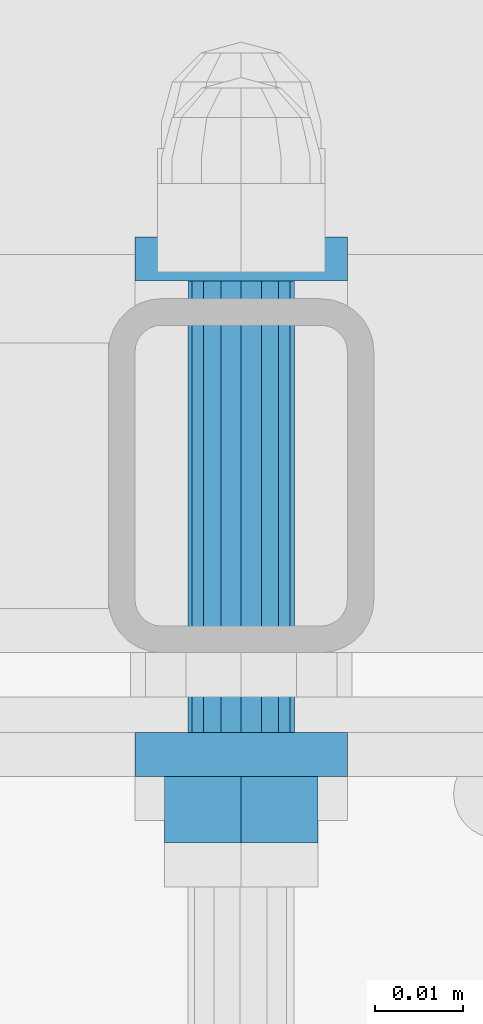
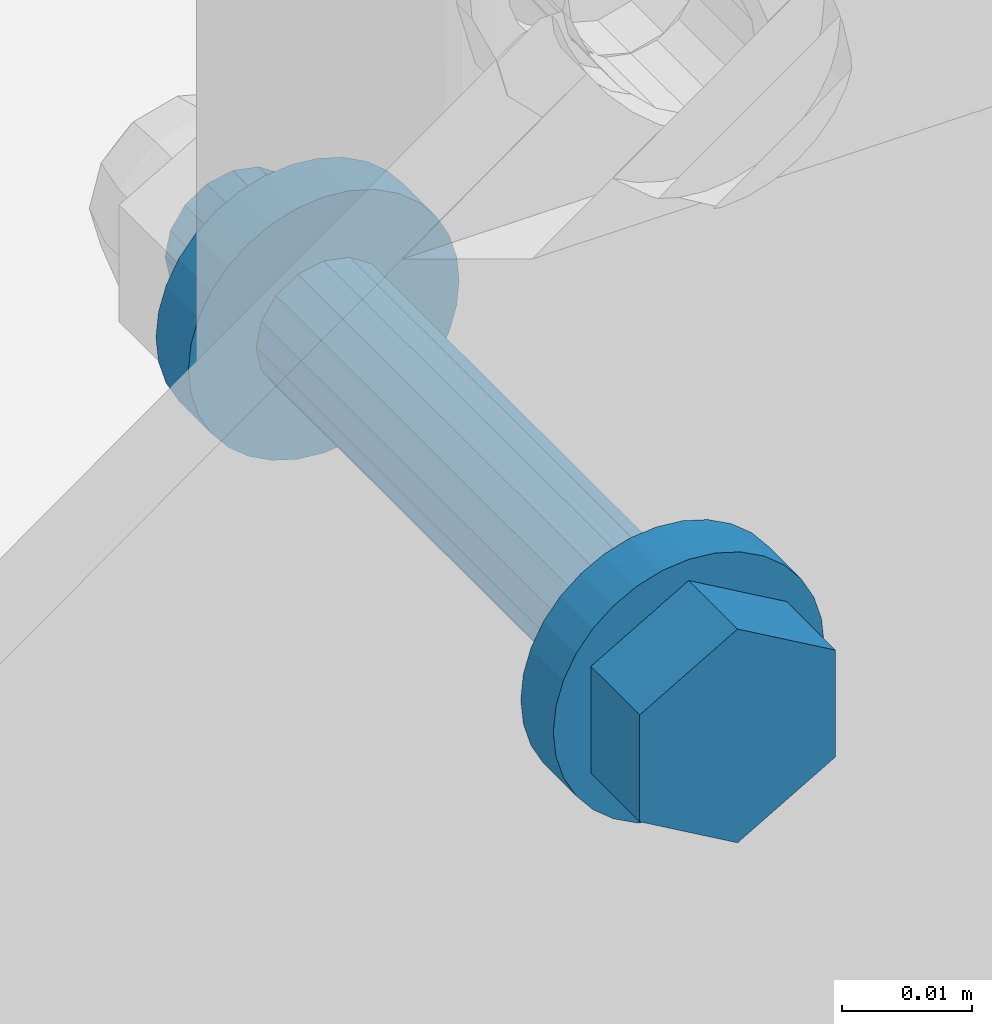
# One storey, part 86 of 116: 1 mechanical fastener.
"""IFC2X3 building model written with IfcOpenShell, lengths in millimetres."""

from ifc_helpers import new_model, entity, si_unit, converted_unit, origin_with_axes, place, context, project, spatial, faceted_brep, element, save


model = new_model("IFC2X3")

# Units and contexts
model_context = context("Model", 3, precision=1e-09, world=origin_with_axes())
ifc_project = project(units=[si_unit("LENGTHUNIT", "METRE", prefix="MILLI"), si_unit("AREAUNIT", "SQUARE_METRE"), si_unit("VOLUMEUNIT", "CUBIC_METRE"), converted_unit("PLANEANGLEUNIT", "DEGREE", entity("IfcPlaneAngleMeasure", 0.01745329), si_unit("PLANEANGLEUNIT", "RADIAN"), dimensions=[0, 0, 0, 0, 0, 0, 0])], contexts=[model_context])

# Site, building, storey
site_placement = place(None, origin_with_axes())
site = spatial("IfcSite", under=ifc_project, at=site_placement, Name="Site", CompositionType="ELEMENT")
building_placement = place(site_placement, origin_with_axes())
building = spatial("IfcBuilding", under=site, at=building_placement, Name="Struktur 1", CompositionType="ELEMENT")
storey_placement = place(building_placement, origin_with_axes())
storey = spatial("IfcBuildingStorey", under=building, at=storey_placement, Name="Default Storey", CompositionType="ELEMENT", Elevation=0.0)

# Mechanical fastener
mechanical_fastener_placement = place(None, origin_with_axes())
element("IfcMechanicalFastener", 1, at=mechanical_fastener_placement, inside=storey, ObjectType="-", NominalDiameter=12.0, NominalLength=70.0, context=model_context, shape_type="Brep", body=[
    faceted_brep([(60565.049134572, 10423.858883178, -1368.0), (60565.049134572, 10426.358883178, -1368.0), (60565.279711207, 10426.358883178, -1370.341083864), (60565.279711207, 10423.858883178, -1370.341083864), (60565.962580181, 10426.358883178, -1372.592201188), (60565.962580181, 10423.858883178, -1372.592201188), (60567.071499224, 10426.358883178, -1374.666842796), (60567.071499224, 10423.858883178, -1374.666842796), (60568.563853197, 10426.358883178, -1376.485281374), (60568.563853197, 10423.858883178, -1376.485281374), (60570.382291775, 10426.358883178, -1377.977635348), (60570.382291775, 10423.858883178, -1377.977635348), (60572.456933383, 10426.358883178, -1379.08655439), (60572.456933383, 10423.858883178, -1379.08655439), (60574.708050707, 10426.358883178, -1379.769423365), (60574.708050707, 10423.858883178, -1379.769423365), (60577.049134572, 10426.358883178, -1380.0), (60577.049134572, 10423.858883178, -1380.0), (60579.390218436, 10426.358883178, -1379.769423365), (60579.390218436, 10423.858883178, -1379.769423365), (60581.64133576, 10426.358883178, -1379.08655439), (60581.64133576, 10423.858883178, -1379.08655439), (60583.715977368, 10426.358883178, -1377.977635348), (60583.715977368, 10423.858883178, -1377.977635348), (60585.534415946, 10426.358883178, -1376.485281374), (60585.534415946, 10423.858883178, -1376.485281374), (60587.026769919, 10426.358883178, -1374.666842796), (60587.026769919, 10423.858883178, -1374.666842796), (60588.135688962, 10426.358883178, -1372.592201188), (60588.135688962, 10423.858883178, -1372.592201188), (60588.818557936, 10426.358883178, -1370.341083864), (60588.818557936, 10423.858883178, -1370.341083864), (60589.049134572, 10426.358883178, -1368.0), (60589.049134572, 10423.858883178, -1368.0), (60588.818557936, 10426.358883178, -1365.658916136), (60588.818557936, 10423.858883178, -1365.658916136), (60588.135688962, 10426.358883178, -1363.407798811), (60588.135688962, 10423.858883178, -1363.407798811), (60587.026769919, 10426.358883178, -1361.333157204), (60587.026769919, 10423.858883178, -1361.333157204), (60585.534415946, 10426.358883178, -1359.514718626), (60585.534415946, 10423.858883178, -1359.514718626), (60583.715977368, 10426.358883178, -1358.022364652), (60583.715977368, 10423.858883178, -1358.022364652), (60581.64133576, 10426.358883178, -1356.91344561), (60581.64133576, 10423.858883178, -1356.91344561), (60579.390218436, 10426.358883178, -1356.230576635), (60579.390218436, 10423.858883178, -1356.230576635), (60577.049134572, 10426.358883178, -1356.0), (60577.049134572, 10423.858883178, -1356.0), (60574.708050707, 10426.358883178, -1356.230576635), (60574.708050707, 10423.858883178, -1356.230576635), (60572.456933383, 10426.358883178, -1356.91344561), (60572.456933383, 10423.858883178, -1356.91344561), (60570.382291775, 10426.358883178, -1358.022364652), (60570.382291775, 10423.858883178, -1358.022364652), (60568.563853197, 10426.358883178, -1359.514718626), (60568.563853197, 10423.858883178, -1359.514718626), (60567.071499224, 10426.358883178, -1361.333157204), (60567.071499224, 10423.858883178, -1361.333157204), (60565.962580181, 10426.358883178, -1363.407798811), (60565.962580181, 10423.858883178, -1363.407798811), (60565.279711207, 10426.358883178, -1365.658916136), (60565.279711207, 10423.858883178, -1365.658916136)], [[[0, 1, 2, 3]], [[3, 2, 4, 5]], [[5, 4, 6, 7]], [[7, 6, 8, 9]], [[9, 8, 10, 11]], [[11, 10, 12, 13]], [[13, 12, 14, 15]], [[15, 14, 16, 17]], [[17, 16, 18, 19]], [[19, 18, 20, 21]], [[21, 20, 22, 23]], [[23, 22, 24, 25]], [[25, 24, 26, 27]], [[27, 26, 28, 29]], [[29, 28, 30, 31]], [[31, 30, 32, 33]], [[33, 32, 34, 35]], [[35, 34, 36, 37]], [[37, 36, 38, 39]], [[39, 38, 40, 41]], [[41, 40, 42, 43]], [[43, 42, 44, 45]], [[45, 44, 46, 47]], [[47, 46, 48, 49]], [[49, 48, 50, 51]], [[51, 50, 52, 53]], [[53, 52, 54, 55]], [[55, 54, 56, 57]], [[57, 56, 58, 59]], [[59, 58, 60, 61]], [[61, 60, 62, 63]], [[63, 62, 1, 0]], [[0, 3, 5, 7, 9, 11, 13, 15, 17, 19, 21, 23, 25, 27, 29, 31, 33, 35, 37, 39, 41, 43, 45, 47, 49, 51, 53, 55, 57, 59, 61, 63]], [[1, 62, 60, 58, 56, 54, 52, 50, 48, 46, 44, 42, 40, 38, 36, 34, 32, 30, 28, 26, 24, 22, 20, 18, 16, 14, 12, 10, 8, 6, 4, 2]]]),
    faceted_brep([(60565.049134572, 10421.358883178, -1368.0), (60565.049134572, 10423.858883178, -1368.0), (60565.279711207, 10423.858883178, -1370.341083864), (60565.279711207, 10421.358883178, -1370.341083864), (60565.962580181, 10423.858883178, -1372.592201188), (60565.962580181, 10421.358883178, -1372.592201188), (60567.071499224, 10423.858883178, -1374.666842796), (60567.071499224, 10421.358883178, -1374.666842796), (60568.563853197, 10423.858883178, -1376.485281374), (60568.563853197, 10421.358883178, -1376.485281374), (60570.382291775, 10423.858883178, -1377.977635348), (60570.382291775, 10421.358883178, -1377.977635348), (60572.456933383, 10423.858883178, -1379.08655439), (60572.456933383, 10421.358883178, -1379.08655439), (60574.708050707, 10423.858883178, -1379.769423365), (60574.708050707, 10421.358883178, -1379.769423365), (60577.049134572, 10423.858883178, -1380.0), (60577.049134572, 10421.358883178, -1380.0), (60579.390218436, 10423.858883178, -1379.769423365), (60579.390218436, 10421.358883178, -1379.769423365), (60581.64133576, 10423.858883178, -1379.08655439), (60581.64133576, 10421.358883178, -1379.08655439), (60583.715977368, 10423.858883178, -1377.977635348), (60583.715977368, 10421.358883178, -1377.977635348), (60585.534415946, 10423.858883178, -1376.485281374), (60585.534415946, 10421.358883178, -1376.485281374), (60587.026769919, 10423.858883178, -1374.666842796), (60587.026769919, 10421.358883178, -1374.666842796), (60588.135688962, 10423.858883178, -1372.592201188), (60588.135688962, 10421.358883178, -1372.592201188), (60588.818557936, 10423.858883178, -1370.341083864), (60588.818557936, 10421.358883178, -1370.341083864), (60589.049134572, 10423.858883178, -1368.0), (60589.049134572, 10421.358883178, -1368.0), (60588.818557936, 10423.858883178, -1365.658916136), (60588.818557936, 10421.358883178, -1365.658916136), (60588.135688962, 10423.858883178, -1363.407798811), (60588.135688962, 10421.358883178, -1363.407798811), (60587.026769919, 10423.858883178, -1361.333157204), (60587.026769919, 10421.358883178, -1361.333157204), (60585.534415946, 10423.858883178, -1359.514718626), (60585.534415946, 10421.358883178, -1359.514718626), (60583.715977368, 10423.858883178, -1358.022364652), (60583.715977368, 10421.358883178, -1358.022364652), (60581.64133576, 10423.858883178, -1356.91344561), (60581.64133576, 10421.358883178, -1356.91344561), (60579.390218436, 10423.858883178, -1356.230576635), (60579.390218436, 10421.358883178, -1356.230576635), (60577.049134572, 10423.858883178, -1356.0), (60577.049134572, 10421.358883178, -1356.0), (60574.708050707, 10423.858883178, -1356.230576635), (60574.708050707, 10421.358883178, -1356.230576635), (60572.456933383, 10423.858883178, -1356.91344561), (60572.456933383, 10421.358883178, -1356.91344561), (60570.382291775, 10423.858883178, -1358.022364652), (60570.382291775, 10421.358883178, -1358.022364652), (60568.563853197, 10423.858883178, -1359.514718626), (60568.563853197, 10421.358883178, -1359.514718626), (60567.071499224, 10423.858883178, -1361.333157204), (60567.071499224, 10421.358883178, -1361.333157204), (60565.962580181, 10423.858883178, -1363.407798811), (60565.962580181, 10421.358883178, -1363.407798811), (60565.279711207, 10423.858883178, -1365.658916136), (60565.279711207, 10421.358883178, -1365.658916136)], [[[0, 1, 2, 3]], [[3, 2, 4, 5]], [[5, 4, 6, 7]], [[7, 6, 8, 9]], [[9, 8, 10, 11]], [[11, 10, 12, 13]], [[13, 12, 14, 15]], [[15, 14, 16, 17]], [[17, 16, 18, 19]], [[19, 18, 20, 21]], [[21, 20, 22, 23]], [[23, 22, 24, 25]], [[25, 24, 26, 27]], [[27, 26, 28, 29]], [[29, 28, 30, 31]], [[31, 30, 32, 33]], [[33, 32, 34, 35]], [[35, 34, 36, 37]], [[37, 36, 38, 39]], [[39, 38, 40, 41]], [[41, 40, 42, 43]], [[43, 42, 44, 45]], [[45, 44, 46, 47]], [[47, 46, 48, 49]], [[49, 48, 50, 51]], [[51, 50, 52, 53]], [[53, 52, 54, 55]], [[55, 54, 56, 57]], [[57, 56, 58, 59]], [[59, 58, 60, 61]], [[61, 60, 62, 63]], [[63, 62, 1, 0]], [[0, 3, 5, 7, 9, 11, 13, 15, 17, 19, 21, 23, 25, 27, 29, 31, 33, 35, 37, 39, 41, 43, 45, 47, 49, 51, 53, 55, 57, 59, 61, 63]], [[1, 62, 60, 58, 56, 54, 52, 50, 48, 46, 44, 42, 40, 38, 36, 34, 32, 30, 28, 26, 24, 22, 20, 18, 16, 14, 12, 10, 8, 6, 4, 2]]]),
    faceted_brep([(60585.722378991, 10421.358883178, -1373.0075), (60585.722378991, 10413.858883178, -1373.0075), (60577.049134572, 10413.858883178, -1378.015), (60577.049134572, 10421.358883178, -1378.015), (60568.375890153, 10413.858883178, -1373.0075), (60568.375890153, 10421.358883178, -1373.0075), (60568.375890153, 10413.858883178, -1362.9925), (60568.375890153, 10421.358883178, -1362.9925), (60577.049134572, 10413.858883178, -1357.985), (60577.049134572, 10421.358883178, -1357.985), (60585.722378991, 10413.858883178, -1362.9925), (60585.722378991, 10421.358883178, -1362.9925)], [[[0, 1, 2, 3]], [[3, 2, 4, 5]], [[5, 4, 6, 7]], [[7, 6, 8, 9]], [[9, 8, 10, 11]], [[11, 10, 1, 0]], [[4, 2, 1, 10, 8, 6]], [[0, 3, 5, 7, 9, 11]]]),
    faceted_brep([(60571.049134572, 10426.358883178, -1368.0), (60571.049134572, 10477.357883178, -1368.0), (60571.505857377, 10477.357883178, -1370.296100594), (60571.505857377, 10426.358883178, -1370.296100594), (60572.806493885, 10477.357883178, -1372.242640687), (60572.806493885, 10426.358883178, -1372.242640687), (60574.753033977, 10477.357883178, -1373.543277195), (60574.753033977, 10426.358883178, -1373.543277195), (60577.049134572, 10477.357883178, -1374.0), (60577.049134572, 10426.358883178, -1374.0), (60579.345235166, 10477.357883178, -1373.543277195), (60579.345235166, 10426.358883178, -1373.543277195), (60581.291775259, 10477.357883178, -1372.242640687), (60581.291775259, 10426.358883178, -1372.242640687), (60582.592411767, 10477.357883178, -1370.296100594), (60582.592411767, 10426.358883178, -1370.296100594), (60583.049134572, 10477.357883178, -1368.0), (60583.049134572, 10426.358883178, -1368.0), (60582.592411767, 10477.357883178, -1365.703899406), (60582.592411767, 10426.358883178, -1365.703899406), (60581.291775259, 10477.357883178, -1363.757359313), (60581.291775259, 10426.358883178, -1363.757359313), (60579.345235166, 10477.357883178, -1362.456722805), (60579.345235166, 10426.358883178, -1362.456722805), (60577.049134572, 10477.357883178, -1362.0), (60577.049134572, 10426.358883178, -1362.0), (60574.753033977, 10477.357883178, -1362.456722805), (60574.753033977, 10426.358883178, -1362.456722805), (60572.806493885, 10477.357883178, -1363.757359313), (60572.806493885, 10426.358883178, -1363.757359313), (60571.505857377, 10477.357883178, -1365.703899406), (60571.505857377, 10426.358883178, -1365.703899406)], [[[0, 1, 2, 3]], [[3, 2, 4, 5]], [[5, 4, 6, 7]], [[7, 6, 8, 9]], [[9, 8, 10, 11]], [[11, 10, 12, 13]], [[13, 12, 14, 15]], [[15, 14, 16, 17]], [[17, 16, 18, 19]], [[19, 18, 20, 21]], [[21, 20, 22, 23]], [[23, 22, 24, 25]], [[25, 24, 26, 27]], [[27, 26, 28, 29]], [[29, 28, 30, 31]], [[31, 30, 1, 0]], [[0, 3, 5, 7, 9, 11, 13, 15, 17, 19, 21, 23, 25, 27, 29, 31]], [[1, 30, 28, 26, 24, 22, 20, 18, 16, 14, 12, 10, 8, 6, 4, 2]]]),
    faceted_brep([(60565.049134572, 10477.357883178, -1368.0), (60565.049134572, 10479.857883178, -1368.0), (60565.279711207, 10479.857883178, -1370.341083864), (60565.279711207, 10477.357883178, -1370.341083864), (60565.962580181, 10479.857883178, -1372.592201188), (60565.962580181, 10477.357883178, -1372.592201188), (60567.071499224, 10479.857883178, -1374.666842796), (60567.071499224, 10477.357883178, -1374.666842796), (60568.563853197, 10479.857883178, -1376.485281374), (60568.563853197, 10477.357883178, -1376.485281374), (60570.382291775, 10479.857883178, -1377.977635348), (60570.382291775, 10477.357883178, -1377.977635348), (60572.456933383, 10479.857883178, -1379.08655439), (60572.456933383, 10477.357883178, -1379.08655439), (60574.708050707, 10479.857883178, -1379.769423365), (60574.708050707, 10477.357883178, -1379.769423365), (60577.049134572, 10479.857883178, -1380.0), (60577.049134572, 10477.357883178, -1380.0), (60579.390218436, 10479.857883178, -1379.769423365), (60579.390218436, 10477.357883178, -1379.769423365), (60581.64133576, 10479.857883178, -1379.08655439), (60581.64133576, 10477.357883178, -1379.08655439), (60583.715977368, 10479.857883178, -1377.977635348), (60583.715977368, 10477.357883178, -1377.977635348), (60585.534415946, 10479.857883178, -1376.485281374), (60585.534415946, 10477.357883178, -1376.485281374), (60587.026769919, 10479.857883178, -1374.666842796), (60587.026769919, 10477.357883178, -1374.666842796), (60588.135688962, 10479.857883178, -1372.592201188), (60588.135688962, 10477.357883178, -1372.592201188), (60588.818557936, 10479.857883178, -1370.341083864), (60588.818557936, 10477.357883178, -1370.341083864), (60589.049134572, 10479.857883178, -1368.0), (60589.049134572, 10477.357883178, -1368.0), (60588.818557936, 10479.857883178, -1365.658916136), (60588.818557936, 10477.357883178, -1365.658916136), (60588.135688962, 10479.857883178, -1363.407798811), (60588.135688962, 10477.357883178, -1363.407798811), (60587.026769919, 10479.857883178, -1361.333157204), (60587.026769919, 10477.357883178, -1361.333157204), (60585.534415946, 10479.857883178, -1359.514718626), (60585.534415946, 10477.357883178, -1359.514718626), (60583.715977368, 10479.857883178, -1358.022364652), (60583.715977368, 10477.357883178, -1358.022364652), (60581.64133576, 10479.857883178, -1356.91344561), (60581.64133576, 10477.357883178, -1356.91344561), (60579.390218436, 10479.857883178, -1356.230576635), (60579.390218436, 10477.357883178, -1356.230576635), (60577.049134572, 10479.857883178, -1356.0), (60577.049134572, 10477.357883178, -1356.0), (60574.708050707, 10479.857883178, -1356.230576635), (60574.708050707, 10477.357883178, -1356.230576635), (60572.456933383, 10479.857883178, -1356.91344561), (60572.456933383, 10477.357883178, -1356.91344561), (60570.382291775, 10479.857883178, -1358.022364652), (60570.382291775, 10477.357883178, -1358.022364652), (60568.563853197, 10479.857883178, -1359.514718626), (60568.563853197, 10477.357883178, -1359.514718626), (60567.071499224, 10479.857883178, -1361.333157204), (60567.071499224, 10477.357883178, -1361.333157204), (60565.962580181, 10479.857883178, -1363.407798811), (60565.962580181, 10477.357883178, -1363.407798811), (60565.279711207, 10479.857883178, -1365.658916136), (60565.279711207, 10477.357883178, -1365.658916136)], [[[0, 1, 2, 3]], [[3, 2, 4, 5]], [[5, 4, 6, 7]], [[7, 6, 8, 9]], [[9, 8, 10, 11]], [[11, 10, 12, 13]], [[13, 12, 14, 15]], [[15, 14, 16, 17]], [[17, 16, 18, 19]], [[19, 18, 20, 21]], [[21, 20, 22, 23]], [[23, 22, 24, 25]], [[25, 24, 26, 27]], [[27, 26, 28, 29]], [[29, 28, 30, 31]], [[31, 30, 32, 33]], [[33, 32, 34, 35]], [[35, 34, 36, 37]], [[37, 36, 38, 39]], [[39, 38, 40, 41]], [[41, 40, 42, 43]], [[43, 42, 44, 45]], [[45, 44, 46, 47]], [[47, 46, 48, 49]], [[49, 48, 50, 51]], [[51, 50, 52, 53]], [[53, 52, 54, 55]], [[55, 54, 56, 57]], [[57, 56, 58, 59]], [[59, 58, 60, 61]], [[61, 60, 62, 63]], [[63, 62, 1, 0]], [[0, 3, 5, 7, 9, 11, 13, 15, 17, 19, 21, 23, 25, 27, 29, 31, 33, 35, 37, 39, 41, 43, 45, 47, 49, 51, 53, 55, 57, 59, 61, 63]], [[1, 62, 60, 58, 56, 54, 52, 50, 48, 46, 44, 42, 40, 38, 36, 34, 32, 30, 28, 26, 24, 22, 20, 18, 16, 14, 12, 10, 8, 6, 4, 2]]]),
    faceted_brep([(60565.049134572, 10479.857883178, -1368.0), (60565.049134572, 10482.357883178, -1368.0), (60565.279711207, 10482.357883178, -1370.341083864), (60565.279711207, 10479.857883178, -1370.341083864), (60565.962580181, 10482.357883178, -1372.592201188), (60565.962580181, 10479.857883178, -1372.592201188), (60567.071499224, 10482.357883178, -1374.666842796), (60567.071499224, 10479.857883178, -1374.666842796), (60568.563853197, 10482.357883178, -1376.485281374), (60568.563853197, 10479.857883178, -1376.485281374), (60570.382291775, 10482.357883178, -1377.977635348), (60570.382291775, 10479.857883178, -1377.977635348), (60572.456933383, 10482.357883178, -1379.08655439), (60572.456933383, 10479.857883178, -1379.08655439), (60574.708050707, 10482.357883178, -1379.769423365), (60574.708050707, 10479.857883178, -1379.769423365), (60577.049134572, 10482.357883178, -1380.0), (60577.049134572, 10479.857883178, -1380.0), (60579.390218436, 10482.357883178, -1379.769423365), (60579.390218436, 10479.857883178, -1379.769423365), (60581.64133576, 10482.357883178, -1379.08655439), (60581.64133576, 10479.857883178, -1379.08655439), (60583.715977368, 10482.357883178, -1377.977635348), (60583.715977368, 10479.857883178, -1377.977635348), (60585.534415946, 10482.357883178, -1376.485281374), (60585.534415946, 10479.857883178, -1376.485281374), (60587.026769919, 10482.357883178, -1374.666842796), (60587.026769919, 10479.857883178, -1374.666842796), (60588.135688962, 10482.357883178, -1372.592201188), (60588.135688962, 10479.857883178, -1372.592201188), (60588.818557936, 10482.357883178, -1370.341083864), (60588.818557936, 10479.857883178, -1370.341083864), (60589.049134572, 10482.357883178, -1368.0), (60589.049134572, 10479.857883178, -1368.0), (60588.818557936, 10482.357883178, -1365.658916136), (60588.818557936, 10479.857883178, -1365.658916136), (60588.135688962, 10482.357883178, -1363.407798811), (60588.135688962, 10479.857883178, -1363.407798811), (60587.026769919, 10482.357883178, -1361.333157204), (60587.026769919, 10479.857883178, -1361.333157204), (60585.534415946, 10482.357883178, -1359.514718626), (60585.534415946, 10479.857883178, -1359.514718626), (60583.715977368, 10482.357883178, -1358.022364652), (60583.715977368, 10479.857883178, -1358.022364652), (60581.64133576, 10482.357883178, -1356.91344561), (60581.64133576, 10479.857883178, -1356.91344561), (60579.390218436, 10482.357883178, -1356.230576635), (60579.390218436, 10479.857883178, -1356.230576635), (60577.049134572, 10482.357883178, -1356.0), (60577.049134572, 10479.857883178, -1356.0), (60574.708050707, 10482.357883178, -1356.230576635), (60574.708050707, 10479.857883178, -1356.230576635), (60572.456933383, 10482.357883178, -1356.91344561), (60572.456933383, 10479.857883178, -1356.91344561), (60570.382291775, 10482.357883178, -1358.022364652), (60570.382291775, 10479.857883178, -1358.022364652), (60568.563853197, 10482.357883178, -1359.514718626), (60568.563853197, 10479.857883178, -1359.514718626), (60567.071499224, 10482.357883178, -1361.333157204), (60567.071499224, 10479.857883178, -1361.333157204), (60565.962580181, 10482.357883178, -1363.407798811), (60565.962580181, 10479.857883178, -1363.407798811), (60565.279711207, 10482.357883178, -1365.658916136), (60565.279711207, 10479.857883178, -1365.658916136)], [[[0, 1, 2, 3]], [[3, 2, 4, 5]], [[5, 4, 6, 7]], [[7, 6, 8, 9]], [[9, 8, 10, 11]], [[11, 10, 12, 13]], [[13, 12, 14, 15]], [[15, 14, 16, 17]], [[17, 16, 18, 19]], [[19, 18, 20, 21]], [[21, 20, 22, 23]], [[23, 22, 24, 25]], [[25, 24, 26, 27]], [[27, 26, 28, 29]], [[29, 28, 30, 31]], [[31, 30, 32, 33]], [[33, 32, 34, 35]], [[35, 34, 36, 37]], [[37, 36, 38, 39]], [[39, 38, 40, 41]], [[41, 40, 42, 43]], [[43, 42, 44, 45]], [[45, 44, 46, 47]], [[47, 46, 48, 49]], [[49, 48, 50, 51]], [[51, 50, 52, 53]], [[53, 52, 54, 55]], [[55, 54, 56, 57]], [[57, 56, 58, 59]], [[59, 58, 60, 61]], [[61, 60, 62, 63]], [[63, 62, 1, 0]], [[0, 3, 5, 7, 9, 11, 13, 15, 17, 19, 21, 23, 25, 27, 29, 31, 33, 35, 37, 39, 41, 43, 45, 47, 49, 51, 53, 55, 57, 59, 61, 63]], [[1, 62, 60, 58, 56, 54, 52, 50, 48, 46, 44, 42, 40, 38, 36, 34, 32, 30, 28, 26, 24, 22, 20, 18, 16, 14, 12, 10, 8, 6, 4, 2]]]),
    faceted_brep([(60571.049134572, 10482.357883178, -1368.0), (60571.049134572, 10491.358883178, -1368.0), (60571.505857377, 10491.358883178, -1370.296100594), (60571.505857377, 10482.357883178, -1370.296100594), (60572.806493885, 10491.358883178, -1372.242640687), (60572.806493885, 10482.357883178, -1372.242640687), (60574.753033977, 10491.358883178, -1373.543277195), (60574.753033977, 10482.357883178, -1373.543277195), (60577.049134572, 10491.358883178, -1374.0), (60577.049134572, 10482.357883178, -1374.0), (60579.345235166, 10491.358883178, -1373.543277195), (60579.345235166, 10482.357883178, -1373.543277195), (60581.291775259, 10491.358883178, -1372.242640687), (60581.291775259, 10482.357883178, -1372.242640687), (60582.592411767, 10491.358883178, -1370.296100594), (60582.592411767, 10482.357883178, -1370.296100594), (60583.049134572, 10491.358883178, -1368.0), (60583.049134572, 10482.357883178, -1368.0), (60582.592411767, 10491.358883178, -1365.703899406), (60582.592411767, 10482.357883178, -1365.703899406), (60581.291775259, 10491.358883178, -1363.757359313), (60581.291775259, 10482.357883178, -1363.757359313), (60579.345235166, 10491.358883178, -1362.456722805), (60579.345235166, 10482.357883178, -1362.456722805), (60577.049134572, 10491.358883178, -1362.0), (60577.049134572, 10482.357883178, -1362.0), (60574.753033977, 10491.358883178, -1362.456722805), (60574.753033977, 10482.357883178, -1362.456722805), (60572.806493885, 10491.358883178, -1363.757359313), (60572.806493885, 10482.357883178, -1363.757359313), (60571.505857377, 10491.358883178, -1365.703899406), (60571.505857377, 10482.357883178, -1365.703899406)], [[[0, 1, 2, 3]], [[3, 2, 4, 5]], [[5, 4, 6, 7]], [[7, 6, 8, 9]], [[9, 8, 10, 11]], [[11, 10, 12, 13]], [[13, 12, 14, 15]], [[15, 14, 16, 17]], [[17, 16, 18, 19]], [[19, 18, 20, 21]], [[21, 20, 22, 23]], [[23, 22, 24, 25]], [[25, 24, 26, 27]], [[27, 26, 28, 29]], [[29, 28, 30, 31]], [[31, 30, 1, 0]], [[0, 3, 5, 7, 9, 11, 13, 15, 17, 19, 21, 23, 25, 27, 29, 31]], [[1, 30, 28, 26, 24, 22, 20, 18, 16, 14, 12, 10, 8, 6, 4, 2]]]),
])

save(model, "model.ifc")
